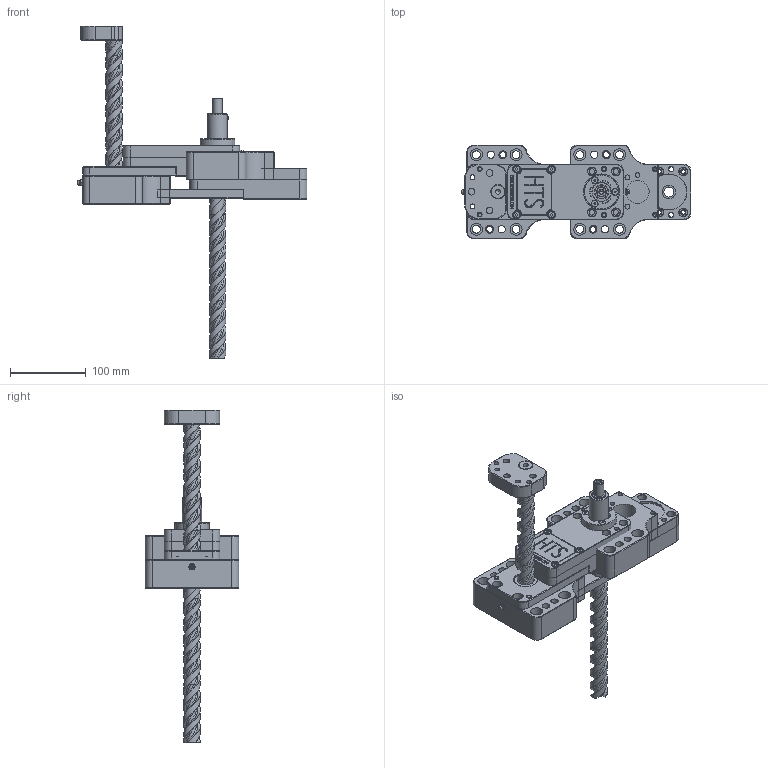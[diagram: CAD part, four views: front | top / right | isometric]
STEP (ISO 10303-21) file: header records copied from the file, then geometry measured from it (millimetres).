
FILE_DESCRIPTION( ( 'Unknown' ), '1' );
FILE_NAME( 'J:/1 Customer Files/HTS/HTS3000 SERIES/simplified_reps/3100-000/3000-000-6instrk.stp', 'Unknown', ( 'Unknown' ), ( 'Unknown' ), 'PSStep 14.0', 'Unknown', ' ' );
FILE_SCHEMA( ( 'AUTOMOTIVE_DESIGN { 1 0 10303 214 1 1 1 1 }' ) );
Length unit declared in the file: millimetre
Products named in the file (21): Assem1; 3008-000_0; 3017-000_0; 3006A-000; 3007A-000; 3016-000; 3025-000_0; 3034-000; 3018-000; 3007B-000; 3021-000; 3035-000; 3012-000_0; 3019-000; 3028-000; 3036-000; 3006B-000; 3022-440_0; 3020-040; 3023-194; 3011-006
Bounding box: 303.45 x 123.83 x 438.15 mm (x, y, z)
Volume: 2027047.4 mm3; surface area: 483690.8 mm2
Topology: 49 solids, 49 shells, 1984 faces, 5031 edges, 3263 vertices
Faces by surface type: plane 800, cylinder 579, cone 281, bspline 256, torus 60, sphere 8
Full cylindrical faces by diameter (mm): 1.587 x6, 2.381 x8, 2.769 x2, 3.307 x8, 3.454 x2, 3.493 x5, 3.551 x12, 3.797 x8, 4.166 x14, 4.216 x8, 4.709 x5, 4.915 x6, 4.928 x2, 5.156 x8, 5.41 x4, 5.766 x5, 6.35 x71, 6.528 x16, 7.144 x8, 7.805 x4, 7.938 x8, 8.712 x16, 8.731 x6, 8.738 x4, 8.763 x2, 9.058 x2, 9.525 x9, 10.16 x8, 10.319 x12, 11.113 x8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
Entity records: 79121 total; most frequent: CARTESIAN_POINT 51513, ORIENTED_EDGE 3942, DIRECTION 3864, EDGE_CURVE 1971, AXIS2_PLACEMENT_3D 1487, VERTEX_POINT 1413, EDGE_LOOP 1381, FACE_OUTER_BOUND 1094
